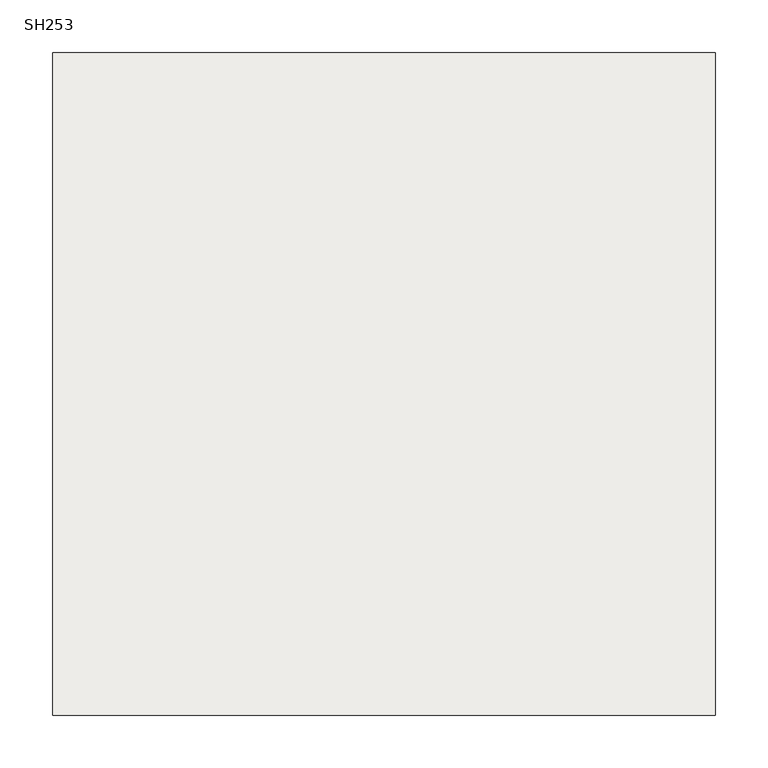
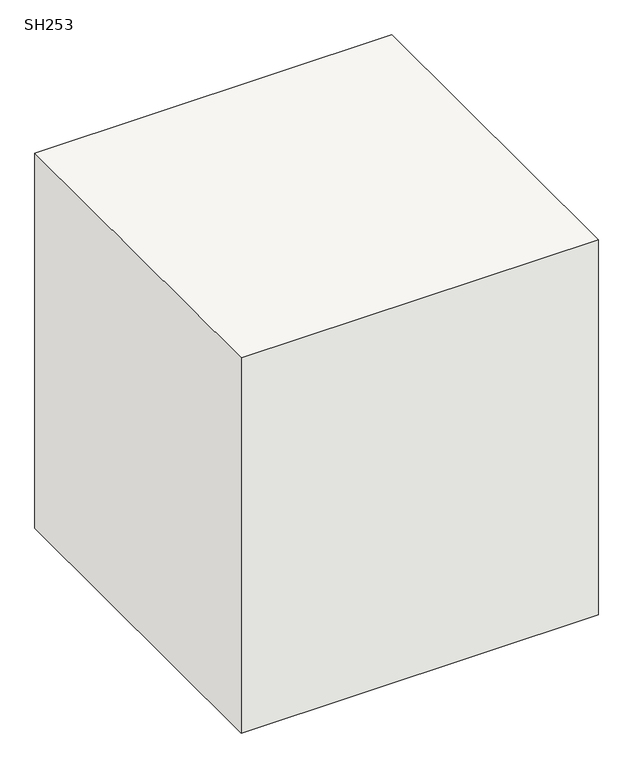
"""IFC4 building model written with IfcOpenShell, lengths in millimetres: slab geometry, 柱形_SH : SH253."""

from ifc_helpers import new_model, si_unit, frame, origin, place, context, project, spatial, polyline, outline, extrude, source, transform, mapped, element, save


def sh253_e0c43a48(model_context):
    return source(origin(), model_context, "Body", "SweptSolid", [
        extrude(outline(polyline([(315.0, 315.0), (315.0, -315.0), (-315.0, -315.0), (-315.0, 315.0), (315.0, 315.0)])), frame((0.0, 0.0, -700.0), z_axis=(0.0, 0.0, 1.0), x_axis=(1.0, 0.0, 0.0)), (0.0, 0.0, 1.0), 700.0),
    ])


if __name__ == "__main__":
    model = new_model("IFC4")
    model_context = context("Model", 3, world=origin())
    ifc_project = project(units=[si_unit("LENGTHUNIT", "METRE", prefix="MILLI")], contexts=[model_context])
    site = spatial("IfcSite", under=ifc_project)
    building = spatial("IfcBuilding", under=site)
    placement = place(None, origin())
    sh253_shape = sh253_e0c43a48(model_context)
    element("IfcSlab", 1, ObjectType="柱形_SH : SH253", at=placement, inside=building, context=model_context, shape_type="MappedRepresentation", body=[
        mapped(sh253_shape, transform((0.0, 0.0, 0.0), x_axis=(1.0, 0.0, 0.0), y_axis=(0.0, 1.0, 0.0), z_axis=(0.0, 0.0, 1.0))),
    ])
    save(model, "model.ifc")
